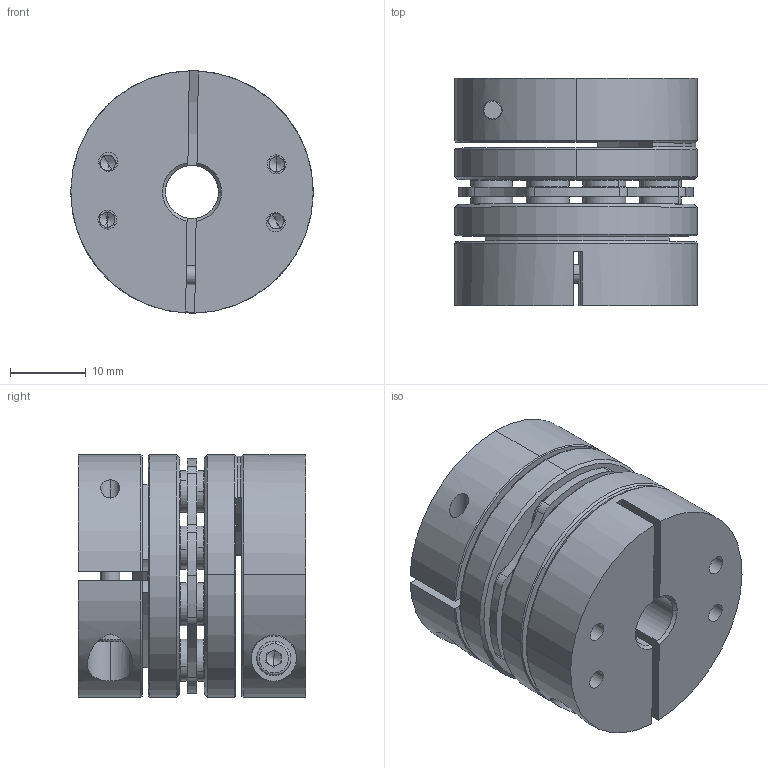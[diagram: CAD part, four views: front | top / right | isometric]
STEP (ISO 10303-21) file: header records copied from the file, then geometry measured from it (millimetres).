
FILE_DESCRIPTION (( 'STEP AP203' ), '1' );
FILE_NAME ('LDG-32-B1-7-7.STEP', '2021-10-28T05:09:21', ( '' ), ( '' ), 'SwSTEP 2.0', 'SolidWorks 2018', '' );
FILE_SCHEMA (( 'CONFIG_CONTROL_DESIGN' ));
Length unit declared in the file: millimetre
Products named in the file (2): LDG-32-B1-7-7; 錨璃5^LDG-32蚾饜芞1
Assembly tree (1 placements, depth 2):
  LDG-32-B1-7-7
    錨璃5^LDG-32蚾饜芞1
Bounding box: 32 x 30 x 32 mm (x, y, z)
Volume: 18848.5 mm3; surface area: 13389.6 mm2
Topology: 1 solids, 11 shells, 795 faces, 1967 edges, 1216 vertices
Faces by surface type: cylinder 301, plane 244, cone 230, torus 20
Entity records: 24191 total; most frequent: CARTESIAN_POINT 4472, DIRECTION 4465, ORIENTED_EDGE 3878, EDGE_CURVE 1939, AXIS2_PLACEMENT_3D 1819, VERTEX_POINT 1216, CIRCLE 1020, EDGE_LOOP 939
